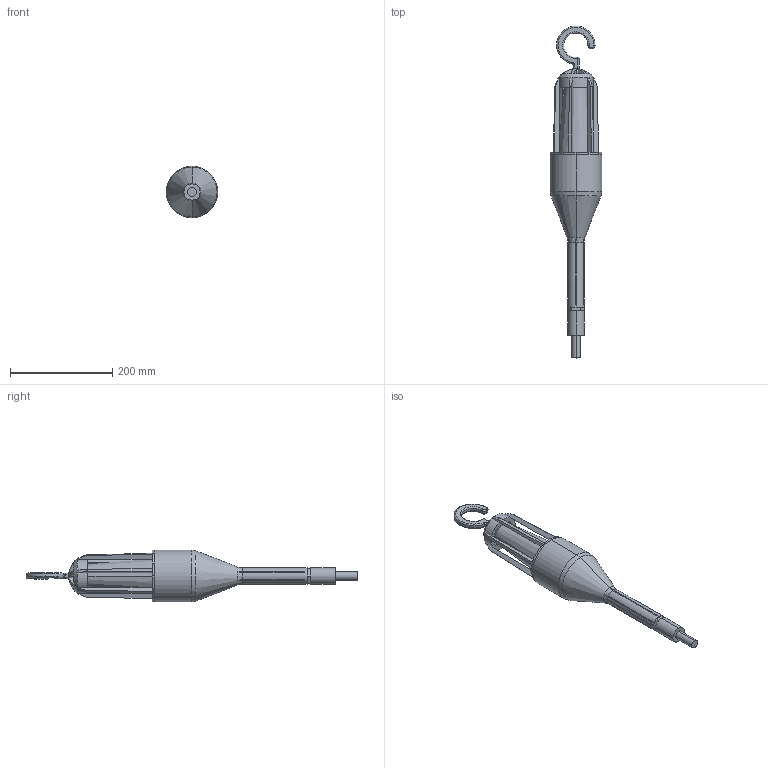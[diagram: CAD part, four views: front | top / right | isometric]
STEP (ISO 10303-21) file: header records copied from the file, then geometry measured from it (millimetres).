
FILE_DESCRIPTION (( 'STEP AP203' ), '1' );
FILE_NAME ('EPLFL-26W-P Droplight Step.STEP', '2013-10-17T18:10:07', ( 'upslen' ), ( '' ), 'SwSTEP 2.0', 'SolidWorks 2013', '' );
FILE_SCHEMA (( 'CONFIG_CONTROL_DESIGN' ));
Length unit declared in the file: inch
Products named in the file (5): Lens; EPLFL-26W-P Droplight Step; Bulb; EPLFL-26W-P Light; Hook
Assembly tree (4 placements, depth 2):
  EPLFL-26W-P Droplight Step
    Bulb
    EPLFL-26W-P Light
    Hook
    Lens
Bounding box: 101.6 x 650.85 x 101.6 mm (x, y, z)
Volume: 1692829.5 mm3; surface area: 191067.7 mm2
Topology: 7 solids, 7 shells, 201 faces, 469 edges, 273 vertices
Faces by surface type: plane 120, cylinder 60, bspline 17, cone 4
Entity records: 7345 total; most frequent: CARTESIAN_POINT 2269, DIRECTION 981, ORIENTED_EDGE 934, EDGE_CURVE 467, AXIS2_PLACEMENT_3D 371, VERTEX_POINT 273, LINE 239, VECTOR 239
